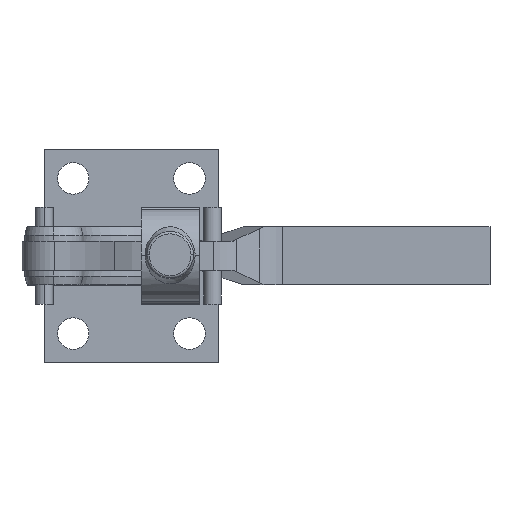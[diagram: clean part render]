
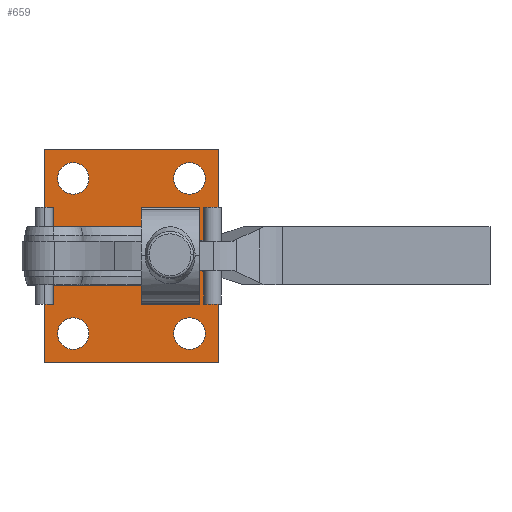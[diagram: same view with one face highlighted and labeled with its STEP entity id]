
A CAD part, top view. The second image highlights one B-rep face of the part: STEP entity #659.
In plain terms, the highlighted planar face has unit normal (0, 0, 1).
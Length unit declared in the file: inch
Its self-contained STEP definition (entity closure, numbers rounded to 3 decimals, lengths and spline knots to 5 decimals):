
#659 = ADVANCED_FACE( '', ( #867, #868, #869, #870, #871 ), #872, .T. );
#867 = FACE_OUTER_BOUND( '', #1293, .T. );
#868 = FACE_BOUND( '', #1294, .T. );
#869 = FACE_BOUND( '', #1295, .T. );
#870 = FACE_BOUND( '', #1296, .T. );
#871 = FACE_BOUND( '', #1297, .T. );
#872 = PLANE( '', #1298 );
#1293 = EDGE_LOOP( '', ( #1768, #1769, #1770, #1771 ) );
#1294 = EDGE_LOOP( '', ( #1772, #1773 ) );
#1295 = EDGE_LOOP( '', ( #1774, #1775 ) );
#1296 = EDGE_LOOP( '', ( #1776, #1777 ) );
#1297 = EDGE_LOOP( '', ( #1778, #1779 ) );
#1298 = AXIS2_PLACEMENT_3D( '', #1780, #1781, #1782 );
#1768 = ORIENTED_EDGE( '', *, *, #3338, .F. );
#1769 = ORIENTED_EDGE( '', *, *, #3336, .F. );
#1770 = ORIENTED_EDGE( '', *, *, #3334, .F. );
#1771 = ORIENTED_EDGE( '', *, *, #3332, .F. );
#1772 = ORIENTED_EDGE( '', *, *, #3320, .T. );
#1773 = ORIENTED_EDGE( '', *, *, #3339, .T. );
#1774 = ORIENTED_EDGE( '', *, *, #3316, .T. );
#1775 = ORIENTED_EDGE( '', *, *, #3340, .T. );
#1776 = ORIENTED_EDGE( '', *, *, #3312, .T. );
#1777 = ORIENTED_EDGE( '', *, *, #3341, .T. );
#1778 = ORIENTED_EDGE( '', *, *, #3308, .T. );
#1779 = ORIENTED_EDGE( '', *, *, #3342, .T. );
#1780 = CARTESIAN_POINT( '', ( 0.625, -1., 0. ) );
#1781 = DIRECTION( '', ( 0., 0., 1. ) );
#1782 = DIRECTION( '', ( 1., 0., 0. ) );
#3308 = EDGE_CURVE( '', #3824, #3821, #3825, .T. );
#3312 = EDGE_CURVE( '', #3832, #3829, #3833, .T. );
#3316 = EDGE_CURVE( '', #3840, #3837, #3841, .T. );
#3320 = EDGE_CURVE( '', #3848, #3845, #3849, .T. );
#3332 = EDGE_CURVE( '', #3865, #3867, #3868, .T. );
#3334 = EDGE_CURVE( '', #3867, #3870, #3871, .T. );
#3336 = EDGE_CURVE( '', #3870, #3873, #3874, .T. );
#3338 = EDGE_CURVE( '', #3873, #3865, #3876, .T. );
#3339 = EDGE_CURVE( '', #3845, #3848, #3877, .T. );
#3340 = EDGE_CURVE( '', #3837, #3840, #3878, .T. );
#3341 = EDGE_CURVE( '', #3829, #3832, #3879, .T. );
#3342 = EDGE_CURVE( '', #3821, #3824, #3880, .T. );
#3821 = VERTEX_POINT( '', #4679 );
#3824 = VERTEX_POINT( '', #4683 );
#3825 = CIRCLE( '', #4684, 0.20313 );
#3829 = VERTEX_POINT( '', #4689 );
#3832 = VERTEX_POINT( '', #4693 );
#3833 = CIRCLE( '', #4694, 0.20313 );
#3837 = VERTEX_POINT( '', #4699 );
#3840 = VERTEX_POINT( '', #4703 );
#3841 = CIRCLE( '', #4704, 0.20313 );
#3845 = VERTEX_POINT( '', #4709 );
#3848 = VERTEX_POINT( '', #4713 );
#3849 = CIRCLE( '', #4714, 0.20313 );
#3865 = VERTEX_POINT( '', #4735 );
#3867 = VERTEX_POINT( '', #4738 );
#3868 = LINE( '', #4739, #4740 );
#3870 = VERTEX_POINT( '', #4743 );
#3871 = LINE( '', #4744, #4745 );
#3873 = VERTEX_POINT( '', #4748 );
#3874 = LINE( '', #4749, #4750 );
#3876 = LINE( '', #4753, #4754 );
#3877 = CIRCLE( '', #4755, 0.20313 );
#3878 = CIRCLE( '', #4756, 0.20313 );
#3879 = CIRCLE( '', #4757, 0.20313 );
#3880 = CIRCLE( '', #4758, 0.20313 );
#4679 = CARTESIAN_POINT( '', ( 2.32813, -1., 0. ) );
#4683 = CARTESIAN_POINT( '', ( 1.92188, -1., 0. ) );
#4684 = AXIS2_PLACEMENT_3D( '', #5879, #5880, #5881 );
#4689 = CARTESIAN_POINT( '', ( 2.32813, 1., 0. ) );
#4693 = CARTESIAN_POINT( '', ( 1.92188, 1., 0. ) );
#4694 = AXIS2_PLACEMENT_3D( '', #5887, #5888, #5889 );
#4699 = CARTESIAN_POINT( '', ( 0.82813, 1., 0. ) );
#4703 = CARTESIAN_POINT( '', ( 0.42188, 1., 0. ) );
#4704 = AXIS2_PLACEMENT_3D( '', #5895, #5896, #5897 );
#4709 = CARTESIAN_POINT( '', ( 0.82813, -1., 0. ) );
#4713 = CARTESIAN_POINT( '', ( 0.42188, -1., 0. ) );
#4714 = AXIS2_PLACEMENT_3D( '', #5903, #5904, #5905 );
#4735 = CARTESIAN_POINT( '', ( 0.25, -1.375, 0. ) );
#4738 = CARTESIAN_POINT( '', ( 0.25, 1.375, 0. ) );
#4739 = CARTESIAN_POINT( '', ( 0.25, -1.375, 0. ) );
#4740 = VECTOR( '', #5927, 1. );
#4743 = CARTESIAN_POINT( '', ( 2.5, 1.375, 0. ) );
#4744 = CARTESIAN_POINT( '', ( 0.25, 1.375, 0. ) );
#4745 = VECTOR( '', #5929, 1. );
#4748 = CARTESIAN_POINT( '', ( 2.5, -1.375, 0. ) );
#4749 = CARTESIAN_POINT( '', ( 2.5, 1.375, 0. ) );
#4750 = VECTOR( '', #5931, 1. );
#4753 = CARTESIAN_POINT( '', ( 2.5, -1.375, 0. ) );
#4754 = VECTOR( '', #5933, 1. );
#4755 = AXIS2_PLACEMENT_3D( '', #5934, #5935, #5936 );
#4756 = AXIS2_PLACEMENT_3D( '', #5937, #5938, #5939 );
#4757 = AXIS2_PLACEMENT_3D( '', #5940, #5941, #5942 );
#4758 = AXIS2_PLACEMENT_3D( '', #5943, #5944, #5945 );
#5879 = CARTESIAN_POINT( '', ( 2.125, -1., 0. ) );
#5880 = DIRECTION( '', ( 0., 0., -1. ) );
#5881 = DIRECTION( '', ( -1., 0., 0. ) );
#5887 = CARTESIAN_POINT( '', ( 2.125, 1., 0. ) );
#5888 = DIRECTION( '', ( 0., 0., -1. ) );
#5889 = DIRECTION( '', ( -1., 0., 0. ) );
#5895 = CARTESIAN_POINT( '', ( 0.625, 1., 0. ) );
#5896 = DIRECTION( '', ( 0., 0., -1. ) );
#5897 = DIRECTION( '', ( -1., 0., 0. ) );
#5903 = CARTESIAN_POINT( '', ( 0.625, -1., 0. ) );
#5904 = DIRECTION( '', ( 0., 0., -1. ) );
#5905 = DIRECTION( '', ( -1., 0., 0. ) );
#5927 = DIRECTION( '', ( 0., 1., 0. ) );
#5929 = DIRECTION( '', ( 1., 0., 0. ) );
#5931 = DIRECTION( '', ( 0., -1., 0. ) );
#5933 = DIRECTION( '', ( -1., 0., 0. ) );
#5934 = CARTESIAN_POINT( '', ( 0.625, -1., 0. ) );
#5935 = DIRECTION( '', ( 0., 0., -1. ) );
#5936 = DIRECTION( '', ( -1., 0., 0. ) );
#5937 = CARTESIAN_POINT( '', ( 0.625, 1., 0. ) );
#5938 = DIRECTION( '', ( 0., 0., -1. ) );
#5939 = DIRECTION( '', ( -1., 0., 0. ) );
#5940 = CARTESIAN_POINT( '', ( 2.125, 1., 0. ) );
#5941 = DIRECTION( '', ( 0., 0., -1. ) );
#5942 = DIRECTION( '', ( -1., 0., 0. ) );
#5943 = CARTESIAN_POINT( '', ( 2.125, -1., 0. ) );
#5944 = DIRECTION( '', ( 0., 0., -1. ) );
#5945 = DIRECTION( '', ( -1., 0., 0. ) );
